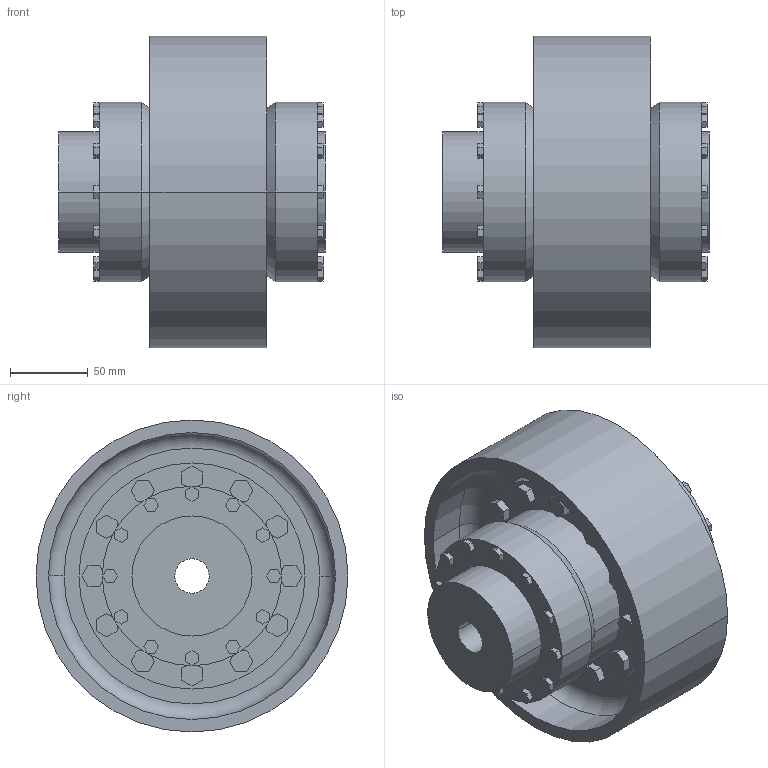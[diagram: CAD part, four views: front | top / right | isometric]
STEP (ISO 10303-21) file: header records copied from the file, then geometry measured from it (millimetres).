
FILE_DESCRIPTION((''),'2;1');
FILE_NAME('A19733900-0_ASM','2019-05-23T',('AB_Roschiwal'),('RENK AG'),'PRO/ENGINEER BY PARAMETRIC TECHNOLOGY CORPORATION, 2015440','PRO/ENGINEER BY PARAMETRIC TECHNOLOGY CORPORATION, 2015440','');
FILE_SCHEMA(('CONFIG_CONTROL_DESIGN'));
Length unit declared in the file: millimetre
Products named in the file (4): SBKD48_GEHAEUSE; SBKD48_NABE; SBKD48_BREMSSCHEIBE; A19733900-0_ASM
Assembly tree (4 placements, depth 2):
  A19733900-0_ASM
    SBKD48_GEHAEUSE
    SBKD48_NABE  x2
    SBKD48_BREMSSCHEIBE
Bounding box: 171 x 200 x 200 mm (x, y, z)
Volume: 1733656.6 mm3; surface area: 352341.4 mm2
Topology: 4 solids, 4 shells, 474 faces, 1164 edges, 772 vertices
Faces by surface type: plane 370, cylinder 96, cone 4, torus 4
Entity records: 13708 total; most frequent: CARTESIAN_POINT 2366, ORIENTED_EDGE 2280, DIRECTION 2264, EDGE_CURVE 1140, VECTOR 956, LINE 956, VERTEX_POINT 756, AXIS2_PLACEMENT_3D 654
